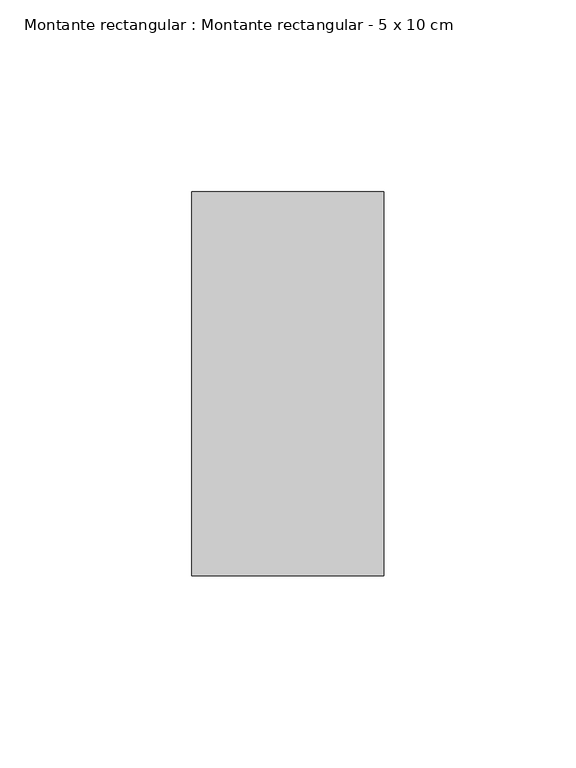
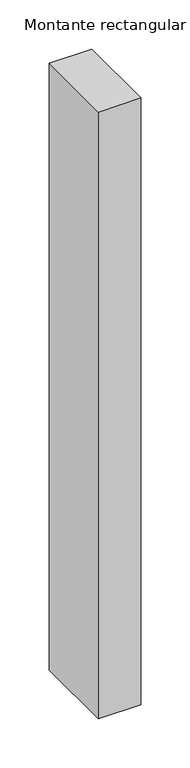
"""IFC4 building model written with IfcOpenShell, lengths in millimetres: member geometry, Montante rectangular : Montante rectangular - 5 x 10 cm."""

from ifc_helpers import new_model, si_unit, frame, origin, place, context, project, spatial, polyline, outline, extrude, source, transform, mapped, element, save


def montante_rectangular_montante_rectangular_5_x_10_cm_00ff942f(model_context):
    return source(origin(), model_context, "Body", "SweptSolid", [
        extrude(outline(polyline([(-50.0, 50.0), (0.0, 50.0), (0.0, -50.0), (-50.0, -50.0), (-50.0, 50.0)])), frame((0.0, 0.0, -753.8396072), z_axis=(0.0, 0.0, 1.0), x_axis=(1.0, 0.0, 0.0)), (0.0, 0.0, 1.0), 753.8396072),
    ])


if __name__ == "__main__":
    model = new_model("IFC4")
    model_context = context("Model", 3, world=origin())
    ifc_project = project(units=[si_unit("LENGTHUNIT", "METRE", prefix="MILLI")], contexts=[model_context])
    site = spatial("IfcSite", under=ifc_project)
    building = spatial("IfcBuilding", under=site)
    placement = place(None, origin())
    montante_rectangular_montante_rectangular_5_x_10_cm_shape = montante_rectangular_montante_rectangular_5_x_10_cm_00ff942f(model_context)
    element("IfcMember", 1, ObjectType="Montante rectangular : Montante rectangular - 5 x 10 cm", at=placement, inside=building, context=model_context, shape_type="MappedRepresentation", body=[
        mapped(montante_rectangular_montante_rectangular_5_x_10_cm_shape, transform((0.0, 0.0, 0.0), x_axis=(1.0, 0.0, 0.0), y_axis=(0.0, 1.0, 0.0), z_axis=(0.0, 0.0, 1.0))),
    ])
    save(model, "model.ifc")
